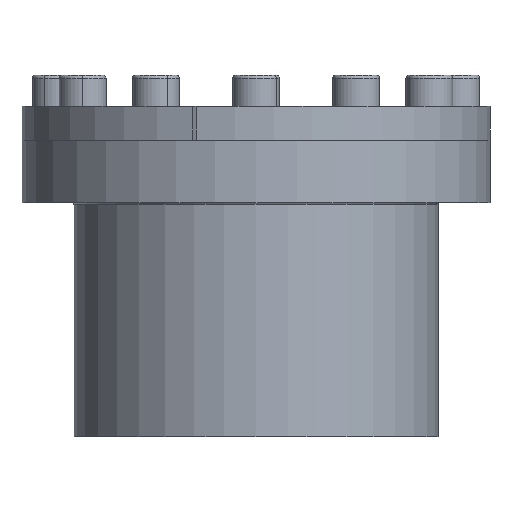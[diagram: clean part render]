
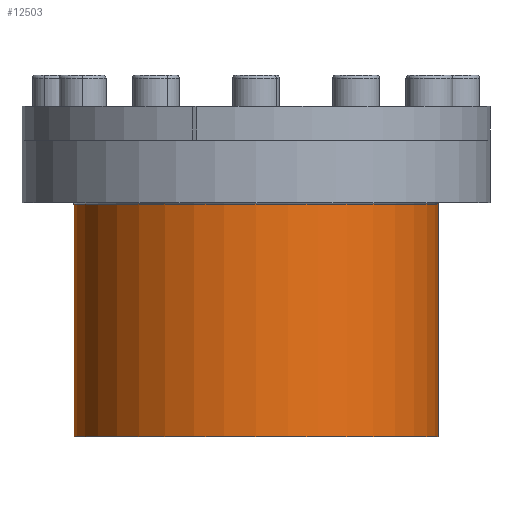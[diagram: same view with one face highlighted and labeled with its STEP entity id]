
A CAD part, front view. The second image highlights one B-rep face of the part: STEP entity #12503.
In plain terms, the highlighted cylindrical face has radius 70 mm (diameter 140 mm), a partial arc.
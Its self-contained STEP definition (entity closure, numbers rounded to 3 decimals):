
#362 = CYLINDRICAL_SURFACE ( 'NONE', #2632, 70. ) ;
#831 = EDGE_LOOP ( 'NONE', ( #15445, #5230, #16836, #9955 ) ) ;
#1717 = EDGE_CURVE ( 'NONE', #10132, #17763, #18218, .T. ) ;
#2067 = EDGE_CURVE ( 'NONE', #11050, #10342, #3846, .T. ) ;
#2632 = AXIS2_PLACEMENT_3D ( 'NONE', #5185, #10820, #13702 ) ;
#3846 = CIRCLE ( 'NONE', #16406, 70. ) ;
#4303 = CARTESIAN_POINT ( 'NONE',  ( -70., 0., -17. ) ) ;
#5185 = CARTESIAN_POINT ( 'NONE',  ( 0., 0., -17. ) ) ;
#5230 = ORIENTED_EDGE ( 'NONE', *, *, #2067, .T. ) ;
#5292 = EDGE_CURVE ( 'NONE', #11050, #10132, #15634, .T. ) ;
#5808 = CARTESIAN_POINT ( 'NONE',  ( 70., 0., -17.6 ) ) ;
#5932 = DIRECTION ( 'NONE',  ( 0., 0., -1. ) ) ;
#6895 = CARTESIAN_POINT ( 'NONE',  ( 70., 0., -17. ) ) ;
#7808 = CARTESIAN_POINT ( 'NONE',  ( 0., 0., -107. ) ) ;
#9152 = VECTOR ( 'NONE', #10297, 1000. ) ;
#9247 = DIRECTION ( 'NONE',  ( -1., 0., 0. ) ) ;
#9589 = LINE ( 'NONE', #4303, #9152 ) ;
#9845 = AXIS2_PLACEMENT_3D ( 'NONE', #7808, #17699, #9247 ) ;
#9955 = ORIENTED_EDGE ( 'NONE', *, *, #1717, .F. ) ;
#10132 = VERTEX_POINT ( 'NONE', #13078 ) ;
#10297 = DIRECTION ( 'NONE',  ( 0., 0., -1. ) ) ;
#10342 = VERTEX_POINT ( 'NONE', #16489 ) ;
#10622 = EDGE_CURVE ( 'NONE', #10342, #17763, #9589, .T. ) ;
#10820 = DIRECTION ( 'NONE',  ( 0., 0., -1. ) ) ;
#11050 = VERTEX_POINT ( 'NONE', #5808 ) ;
#12503 = ADVANCED_FACE ( 'NONE', ( #12936 ), #362, .T. ) ;
#12936 = FACE_OUTER_BOUND ( 'NONE', #831, .T. ) ;
#13078 = CARTESIAN_POINT ( 'NONE',  ( 70., 0., -107. ) ) ;
#13702 = DIRECTION ( 'NONE',  ( -1., 0., 0. ) ) ;
#13885 = DIRECTION ( 'NONE',  ( 0., 0., -1. ) ) ;
#14415 = CARTESIAN_POINT ( 'NONE',  ( 0., 0., -17.6 ) ) ;
#15176 = VECTOR ( 'NONE', #13885, 1000. ) ;
#15445 = ORIENTED_EDGE ( 'NONE', *, *, #5292, .F. ) ;
#15634 = LINE ( 'NONE', #6895, #15176 ) ;
#15837 = DIRECTION ( 'NONE',  ( -1., 0., 0. ) ) ;
#16406 = AXIS2_PLACEMENT_3D ( 'NONE', #14415, #5932, #15837 ) ;
#16489 = CARTESIAN_POINT ( 'NONE',  ( -70., 0., -17.6 ) ) ;
#16608 = CARTESIAN_POINT ( 'NONE',  ( -70., 0., -107. ) ) ;
#16836 = ORIENTED_EDGE ( 'NONE', *, *, #10622, .T. ) ;
#17699 = DIRECTION ( 'NONE',  ( 0., 0., -1. ) ) ;
#17763 = VERTEX_POINT ( 'NONE', #16608 ) ;
#18218 = CIRCLE ( 'NONE', #9845, 70. ) ;
